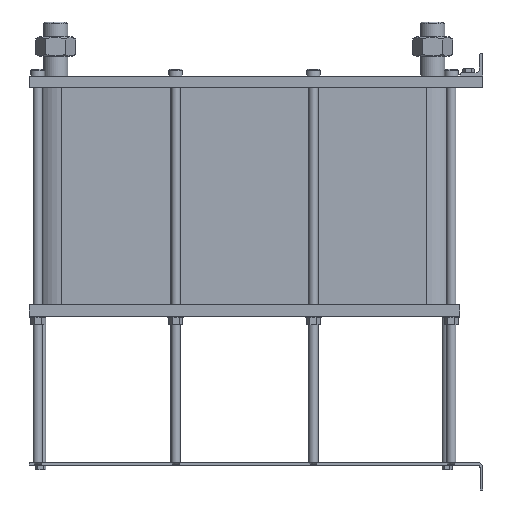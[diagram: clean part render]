
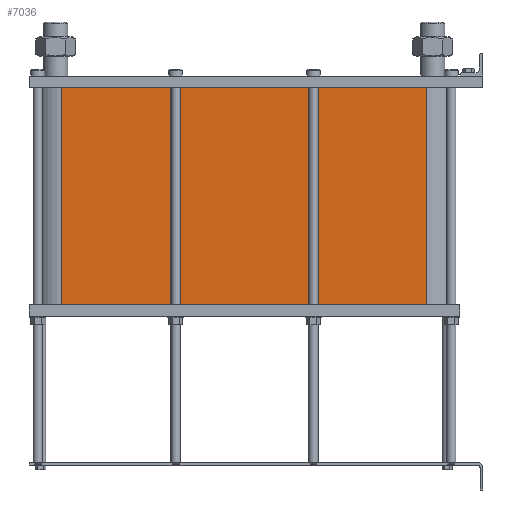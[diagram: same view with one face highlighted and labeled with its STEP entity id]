
A CAD part, left-side view. The second image highlights one B-rep face of the part: STEP entity #7036.
In plain terms, the highlighted planar face has unit normal (-1, 0, 0).
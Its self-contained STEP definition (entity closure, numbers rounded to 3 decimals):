
#999=LINE('',#15640,#1553);
#1031=LINE('',#15723,#1585);
#1032=LINE('',#15726,#1586);
#1033=LINE('',#15727,#1587);
#1553=VECTOR('',#9658,10.);
#1585=VECTOR('',#9736,10.);
#1586=VECTOR('',#9741,10.);
#1587=VECTOR('',#9742,10.);
#2117=FACE_OUTER_BOUND('',#2671,.T.);
#2671=EDGE_LOOP('',(#6246,#6247,#6248,#6249));
#3527=VERTEX_POINT('',#15634);
#3529=VERTEX_POINT('',#15638);
#3556=VERTEX_POINT('',#15720);
#3557=VERTEX_POINT('',#15722);
#4425=EDGE_CURVE('',#3529,#3527,#999,.T.);
#4466=EDGE_CURVE('',#3557,#3556,#1031,.T.);
#4468=EDGE_CURVE('',#3527,#3556,#1032,.T.);
#4469=EDGE_CURVE('',#3557,#3529,#1033,.T.);
#6246=ORIENTED_EDGE('',*,*,#4468,.F.);
#6247=ORIENTED_EDGE('',*,*,#4425,.F.);
#6248=ORIENTED_EDGE('',*,*,#4469,.F.);
#6249=ORIENTED_EDGE('',*,*,#4466,.T.);
#6608=PLANE('',#7812);
#7036=ADVANCED_FACE('',(#2117),#6608,.T.);
#7812=AXIS2_PLACEMENT_3D('',#15725,#9739,#9740);
#9658=DIRECTION('',(0.,0.,-1.));
#9736=DIRECTION('',(0.,0.,-1.));
#9739=DIRECTION('center_axis',(-1.,0.,0.));
#9740=DIRECTION('ref_axis',(0.,1.,0.));
#9741=DIRECTION('',(0.,1.,0.));
#9742=DIRECTION('',(0.,-1.,0.));
#15634=CARTESIAN_POINT('',(-72.,97.5,-378.2));
#15638=CARTESIAN_POINT('',(-72.,97.5,0.));
#15640=CARTESIAN_POINT('',(-72.,97.5,0.));
#15720=CARTESIAN_POINT('',(-72.,733.5,-378.2));
#15722=CARTESIAN_POINT('',(-72.,733.5,0.));
#15723=CARTESIAN_POINT('',(-72.,733.5,0.));
#15725=CARTESIAN_POINT('Origin',(-72.,97.5,0.));
#15726=CARTESIAN_POINT('',(-72.,256.5,-378.2));
#15727=CARTESIAN_POINT('',(-72.,733.5,0.));
